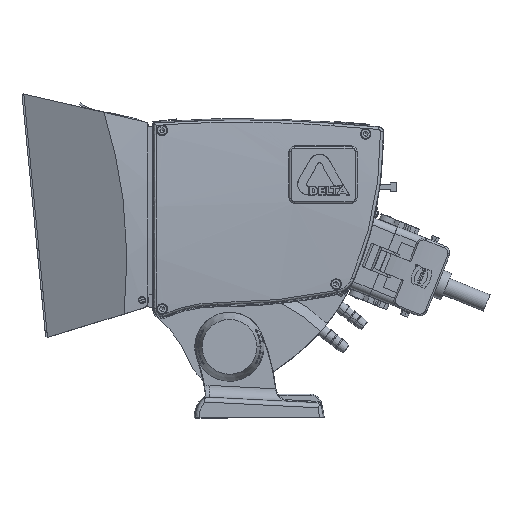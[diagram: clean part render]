
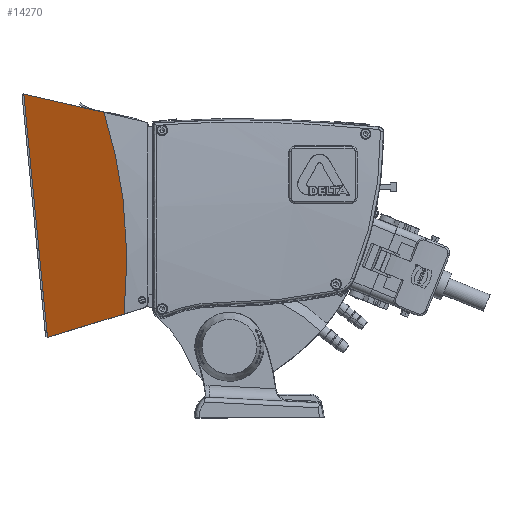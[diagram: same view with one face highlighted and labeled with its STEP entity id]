
A CAD part, top view. The second image highlights one B-rep face of the part: STEP entity #14270.
In plain terms, the highlighted planar face has unit normal (-0.421, -0.041, 0.906).
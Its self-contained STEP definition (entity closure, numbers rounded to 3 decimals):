
#776 = VERTEX_POINT ( 'NONE', #265398 ) ;
#6342 = EDGE_CURVE ( 'NONE', #15014, #264649, #128613, .T. ) ;
#8541 = DIRECTION ( 'NONE',  ( -0.907, 0., -0.421 ) ) ;
#14270 = ADVANCED_FACE ( 'NONE', ( #55349 ), #28241, .F. ) ;
#15014 = VERTEX_POINT ( 'NONE', #258489 ) ;
#16535 = LINE ( 'NONE', #237124, #131873 ) ;
#25118 = VECTOR ( 'NONE', #252812, 1000. ) ;
#28241 = PLANE ( 'NONE',  #106503 ) ;
#32371 =( BOUNDED_CURVE ( )  B_SPLINE_CURVE ( 3, ( #47634, #252241, #217059, #94093 ),
 .UNSPECIFIED., .F., .F. ) 
 B_SPLINE_CURVE_WITH_KNOTS ( ( 4, 4 ),
 ( 6.233, 6.426 ),
 .UNSPECIFIED. ) 
 CURVE ( )  GEOMETRIC_REPRESENTATION_ITEM ( )  RATIONAL_B_SPLINE_CURVE ( ( 1., 0.997, 0.997, 1. ) ) 
 REPRESENTATION_ITEM ( '' )  );
#38664 = DIRECTION ( 'NONE',  ( -0.891, 0.206, -0.404 ) ) ;
#42221 = ORIENTED_EDGE ( 'NONE', *, *, #249656, .T. ) ;
#47634 = CARTESIAN_POINT ( 'NONE',  ( -118.755, -71.961, 43.259 ) ) ;
#55349 = FACE_OUTER_BOUND ( 'NONE', #133025, .T. ) ;
#88552 = ORIENTED_EDGE ( 'NONE', *, *, #150706, .T. ) ;
#94093 = CARTESIAN_POINT ( 'NONE',  ( -135.762, 98.342, 43.067 ) ) ;
#106503 = AXIS2_PLACEMENT_3D ( 'NONE', #254324, #131167, #8541 ) ;
#115497 = CARTESIAN_POINT ( 'NONE',  ( -183.546, -91.769, 12.293 ) ) ;
#122254 = VECTOR ( 'NONE', #38664, 1000. ) ;
#128613 = LINE ( 'NONE', #220828, #122254 ) ;
#129641 = CARTESIAN_POINT ( 'NONE',  ( -141.114, -78.797, 32.573 ) ) ;
#131167 = DIRECTION ( 'NONE',  ( 0.421, 0.041, -0.906 ) ) ;
#131873 = VECTOR ( 'NONE', #257880, 1000. ) ;
#133025 = EDGE_LOOP ( 'NONE', ( #42221, #88552, #248503, #228409 ) ) ;
#148213 = CARTESIAN_POINT ( 'NONE',  ( -203.595, 114.002, 12.293 ) ) ;
#150706 = EDGE_CURVE ( 'NONE', #776, #15014, #32371, .T. ) ;
#215752 = EDGE_CURVE ( 'NONE', #264649, #230973, #16535, .T. ) ;
#217059 = CARTESIAN_POINT ( 'NONE',  ( -118.23, 41.669, 48.641 ) ) ;
#220828 = CARTESIAN_POINT ( 'NONE',  ( -143.502, 100.129, 39.555 ) ) ;
#228409 = ORIENTED_EDGE ( 'NONE', *, *, #215752, .T. ) ;
#230973 = VERTEX_POINT ( 'NONE', #115497 ) ;
#236983 = LINE ( 'NONE', #129641, #25118 ) ;
#237124 = CARTESIAN_POINT ( 'NONE',  ( -203.595, 114.002, 12.293 ) ) ;
#248503 = ORIENTED_EDGE ( 'NONE', *, *, #6342, .T. ) ;
#249656 = EDGE_CURVE ( 'NONE', #230973, #776, #236983, .T. ) ;
#252241 = CARTESIAN_POINT ( 'NONE',  ( -112.543, -15.276, 48.705 ) ) ;
#252812 = DIRECTION ( 'NONE',  ( 0.87, 0.266, 0.416 ) ) ;
#254324 = CARTESIAN_POINT ( 'NONE',  ( -263.655, -91.514, -24.875 ) ) ;
#257880 = DIRECTION ( 'NONE',  ( 0.097, -0.995, 0. ) ) ;
#258489 = CARTESIAN_POINT ( 'NONE',  ( -135.762, 98.342, 43.067 ) ) ;
#264649 = VERTEX_POINT ( 'NONE', #148213 ) ;
#265398 = CARTESIAN_POINT ( 'NONE',  ( -118.755, -71.961, 43.259 ) ) ;
